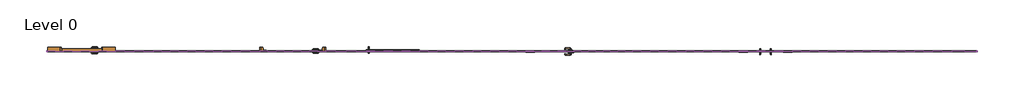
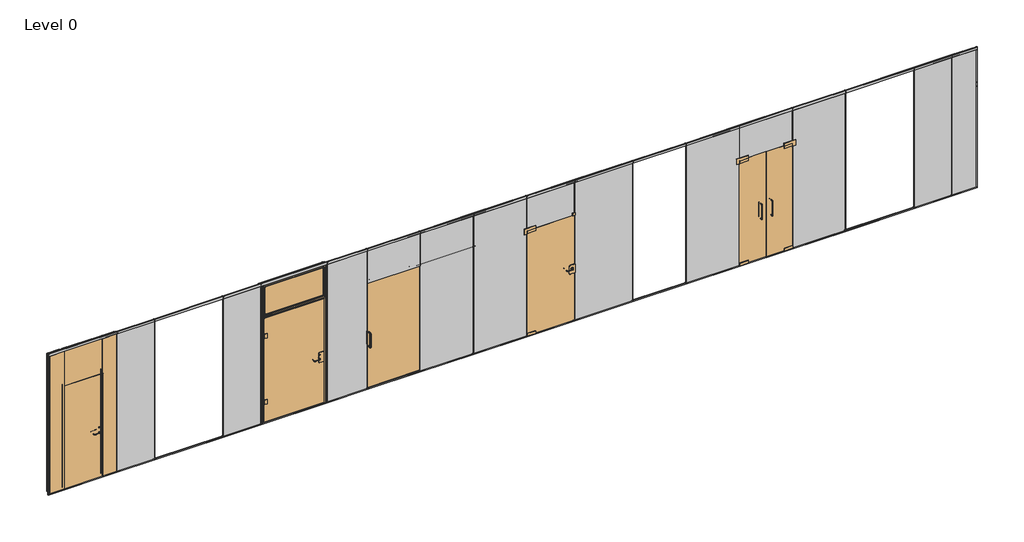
# One storey, incomplete: 93 members, 13 plates, 5 doors.
"""IFC4 building model written with IfcOpenShell, lengths in millimetres."""

from ifc_helpers import new_model, si_unit, origin, place, context, project, spatial, transform, mapped, element, save
from components import door_4bdab91e, door_efc99afd, door_12e92a34, door_593d37a7, door_2dd58c00, door_1290_8cabc72d, rectangular_mullion_rectangular_mullion_fg_bottom_20mm_be47ead7, rectangular_mullion_rectangular_mullion_fg_bottom_20mm_2a522555, rectangular_mullion_rectangular_mullion_fg_bottom_20mm_8a9d94b1, rectangular_mullion_rectangular_mullion_fg_bottom_20mm_cffc065b, rectangular_mullion_rectangular_mullion_fg_bottom_20mm_e7f64252, rectangular_mullion_rectangular_mullion_fg_bottom_20mm_6217017c, rectangular_mullion_rectangular_mullion_fg_bottom_20mm_01b67362, rectangular_mullion_rectangular_mullion_fg_bottom_20mm_9df6eb3f, rectangular_mullion_rectangular_mullion_fg_left_20mm_1a1b1e89, rectangular_mullion_rectangular_mullion_fg_left_20mm_8ce3ad6a, rectangular_mullion_rectangular_mullion_fg_left_20mm_3cd01e2b, rectangular_mullion_rectangular_mullion_fg_right_20mm_df7b3989, rectangular_mullion_rectangular_mullion_fg_right_20mm_d84e4cdc, rectangular_mullion_rectangular_mullion_fg_right_20mm_bd3cf4a2, rectangular_mullion_rectangular_mullion_fg_top_20mm_3b803832, rectangular_mullion_rectangular_mullion_fg_top_20mm_c4bc6695, rectangular_mullion_rectangular_mullion_fg_top_20mm_9133186d, rectangular_mullion_rectangular_mullion_fg_top_20mm_12d62298, rectangular_mullion_rectangular_mullion_fg_top_20mm_db12e461, rectangular_mullion_rectangular_mullion_fg_top_20mm_400e5d01, rectangular_mullion_rectangular_mullion_fg_top_20mm_ac938a26, rectangular_mullion_rectangular_mullion_fg_top_20mm_d943a9ef, rectangular_mullion_rectangular_mullion_fg_vertical_bcc550d2, rectangular_mullion_rectangular_mullion_fg_vertical_0372845c, rectangular_mullion_rectangular_mullion_fg_vertical_7fae1f3c, plate_ace970d0, plate_fe703c6f, plate_38296ff7, plate_d996e99b, plate_20f3e559, plate_4b7810f1, plate_a2abe902

model = new_model("IFC4")

# Units and contexts
model_context = context("Model", 3, world=origin())
ifc_project = project(units=[si_unit("LENGTHUNIT", "METRE", prefix="MILLI")], contexts=[model_context])

# Site, building, storey
site = spatial("IfcSite", under=ifc_project)
building = spatial("IfcBuilding", under=site)
storey = spatial("IfcBuildingStorey", under=building, Name="Level 0", Elevation=0.0)

# Doors
placement = place(None, origin())
door_shape = door_4bdab91e(model_context)
element("IfcDoor", 1, ObjectType="GLASSLINE_SLAGDÖRR GLAS GLAS Double Door : GLASSLINE_SLAGDÖRR GLAS GLAS Double Door", at=placement, inside=storey, context=model_context, shape_type="MappedRepresentation", body=[
    mapped(door_shape, transform((5114.7291656, 515.3114675, 20.0), x_axis=(1.0, 0.0, 0.0), y_axis=(0.0, 1.0, 0.0), z_axis=(0.0, 0.0, 1.0))),
])
door_2_shape = door_efc99afd(model_context)
element("IfcDoor", 2, ObjectType="GLASSLINE_SLAGDÖRR GLAS GLAS : GLASSLINE_SLAGDÖRR GLAS GLAS", at=placement, inside=storey, context=model_context, shape_type="MappedRepresentation", body=[
    mapped(door_2_shape, transform((1064.7291656, 515.3114675, 20.0), x_axis=(1.0, 0.0, 0.0), y_axis=(0.0, 1.0, 0.0), z_axis=(0.0, 0.0, 1.0))),
])
door_3_shape = door_12e92a34(model_context)
element("IfcDoor", 3, ObjectType="GLASSLINE_SKJUTDÖRR GLAS : GLASSLINE_SKJUTDÖRR GLAS", at=placement, inside=storey, context=model_context, shape_type="MappedRepresentation", body=[
    mapped(door_3_shape, transform((-1885.2708344, 515.3114675, 20.0), x_axis=(1.0, 0.0, 0.0), y_axis=(0.0, 1.0, 0.0), z_axis=(0.0, 0.0, 1.0))),
])
door_4_shape = door_593d37a7(model_context)
door_5_shape = door_2dd58c00(model_context)
element("IfcDoor", 4, ObjectType="GLASSLINE_GLASDÖRR I TRAKARM : GLASSLINE_GLASDÖRR I TRAKARM", at=placement, inside=storey, context=model_context, shape_type="MappedRepresentation", body=[
    mapped(door_4_shape, transform((-3762.2708344, 515.3114675, 20.0), x_axis=(1.0, 0.0, 0.0), y_axis=(0.0, 1.0, 0.0), z_axis=(0.0, 0.0, 1.0))),
    mapped(door_5_shape, transform((-3762.2708344, 515.3114675, 20.0), x_axis=(1.0, 0.0, 0.0), y_axis=(0.0, 1.0, 0.0), z_axis=(0.0, 0.0, 1.0))),
])
door_1290_shape = door_1290_8cabc72d(model_context)
element("IfcDoor", 5, ObjectType="GLASSLINE_DÖRR FRAMLESS : 1290", at=placement, inside=storey, context=model_context, shape_type="MappedRepresentation", body=[
    mapped(door_1290_shape, transform((-7730.2708344, 515.3114675, 20.0), x_axis=(1.0, 0.0, 0.0), y_axis=(0.0, 1.0, 0.0), z_axis=(0.0, 0.0, 1.0))),
])

# Members
rectangular_mullion_rectangular_mullion_fg_bottom_20mm_shape = rectangular_mullion_rectangular_mullion_fg_bottom_20mm_be47ead7(model_context)
element("IfcMember", 6, ObjectType="Rectangular Mullion : Rectangular Mullion-FG Bottom 20mm", at=placement, inside=storey, context=model_context, shape_type="MappedRepresentation", body=[
    mapped(rectangular_mullion_rectangular_mullion_fg_bottom_20mm_shape, transform((-8385.2708344, 515.3114675, 0.0), x_axis=(0.0, 0.0, -1.0), y_axis=(0.0, -1.0, 0.0), z_axis=(-1.0, 0.0, 0.0))),
])
rectangular_mullion_rectangular_mullion_fg_bottom_20mm_2_shape = rectangular_mullion_rectangular_mullion_fg_bottom_20mm_2a522555(model_context)
element("IfcMember", 7, ObjectType="Rectangular Mullion : Rectangular Mullion-FG Bottom 20mm", at=placement, inside=storey, context=model_context, shape_type="MappedRepresentation", body=[
    mapped(rectangular_mullion_rectangular_mullion_fg_bottom_20mm_2_shape, transform((-7095.2708344, 515.3114675, 0.0), x_axis=(0.0, 0.0, -1.0), y_axis=(0.0, -1.0, 0.0), z_axis=(-1.0, 0.0, 0.0))),
])
element("IfcMember", 8, ObjectType="Rectangular Mullion : Rectangular Mullion-FG Bottom 20mm", at=placement, inside=storey, context=model_context, shape_type="MappedRepresentation", body=[
    mapped(rectangular_mullion_rectangular_mullion_fg_bottom_20mm_2_shape, transform((-5095.2708344, 515.3114675, 0.0), x_axis=(0.0, 0.0, -1.0), y_axis=(0.0, -1.0, 0.0), z_axis=(-1.0, 0.0, 0.0))),
])
element("IfcMember", 9, ObjectType="Rectangular Mullion : Rectangular Mullion-FG Bottom 20mm", at=placement, inside=storey, context=model_context, shape_type="MappedRepresentation", body=[
    mapped(rectangular_mullion_rectangular_mullion_fg_bottom_20mm_2_shape, transform((7904.7291656, 515.3114675, 0.0), x_axis=(0.0, 0.0, -1.0), y_axis=(0.0, -1.0, 0.0), z_axis=(-1.0, 0.0, 0.0))),
])
element("IfcMember", 10, ObjectType="Rectangular Mullion : Rectangular Mullion-FG Bottom 20mm", at=placement, inside=storey, context=model_context, shape_type="MappedRepresentation", body=[
    mapped(rectangular_mullion_rectangular_mullion_fg_bottom_20mm_shape, transform((-6385.2708344, 515.3114675, 0.0), x_axis=(0.0, 0.0, -1.0), y_axis=(0.0, -1.0, 0.0), z_axis=(-1.0, 0.0, 0.0))),
])
element("IfcMember", 11, ObjectType="Rectangular Mullion : Rectangular Mullion-FG Bottom 20mm", at=placement, inside=storey, context=model_context, shape_type="MappedRepresentation", body=[
    mapped(rectangular_mullion_rectangular_mullion_fg_bottom_20mm_shape, transform((6614.7291656, 515.3114675, 0.0), x_axis=(0.0, 0.0, -1.0), y_axis=(0.0, -1.0, 0.0), z_axis=(-1.0, 0.0, 0.0))),
])
rectangular_mullion_rectangular_mullion_fg_bottom_20mm_3_shape = rectangular_mullion_rectangular_mullion_fg_bottom_20mm_8a9d94b1(model_context)
element("IfcMember", 12, ObjectType="Rectangular Mullion : Rectangular Mullion-FG Bottom 20mm", at=placement, inside=storey, context=model_context, shape_type="MappedRepresentation", body=[
    mapped(rectangular_mullion_rectangular_mullion_fg_bottom_20mm_3_shape, transform((-4385.2708344, 515.3114675, 0.0), x_axis=(0.0, 0.0, -1.0), y_axis=(0.0, -1.0, 0.0), z_axis=(-1.0, 0.0, 0.0))),
])
rectangular_mullion_rectangular_mullion_fg_bottom_20mm_4_shape = rectangular_mullion_rectangular_mullion_fg_bottom_20mm_cffc065b(model_context)
element("IfcMember", 13, ObjectType="Rectangular Mullion : Rectangular Mullion-FG Bottom 20mm", at=placement, inside=storey, context=model_context, shape_type="MappedRepresentation", body=[
    mapped(rectangular_mullion_rectangular_mullion_fg_bottom_20mm_4_shape, transform((-3139.2708344, 515.3114675, 0.0), x_axis=(0.0, 0.0, -1.0), y_axis=(0.0, -1.0, 0.0), z_axis=(-1.0, 0.0, 0.0))),
])
rectangular_mullion_rectangular_mullion_fg_bottom_20mm_5_shape = rectangular_mullion_rectangular_mullion_fg_bottom_20mm_e7f64252(model_context)
element("IfcMember", 14, ObjectType="Rectangular Mullion : Rectangular Mullion-FG Bottom 20mm", at=placement, inside=storey, context=model_context, shape_type="MappedRepresentation", body=[
    mapped(rectangular_mullion_rectangular_mullion_fg_bottom_20mm_5_shape, transform((-2385.2708344, 515.3114675, 0.0), x_axis=(0.0, 0.0, -1.0), y_axis=(0.0, -1.0, 0.0), z_axis=(-1.0, 0.0, 0.0))),
])
element("IfcMember", 15, ObjectType="Rectangular Mullion : Rectangular Mullion-FG Bottom 20mm", at=placement, inside=storey, context=model_context, shape_type="MappedRepresentation", body=[
    mapped(rectangular_mullion_rectangular_mullion_fg_bottom_20mm_5_shape, transform((-1385.2708344, 515.3114675, 0.0), x_axis=(0.0, 0.0, -1.0), y_axis=(0.0, -1.0, 0.0), z_axis=(-1.0, 0.0, 0.0))),
])
element("IfcMember", 16, ObjectType="Rectangular Mullion : Rectangular Mullion-FG Bottom 20mm", at=placement, inside=storey, context=model_context, shape_type="MappedRepresentation", body=[
    mapped(rectangular_mullion_rectangular_mullion_fg_bottom_20mm_5_shape, transform((-385.2708344, 515.3114675, 0.0), x_axis=(0.0, 0.0, -1.0), y_axis=(0.0, -1.0, 0.0), z_axis=(-1.0, 0.0, 0.0))),
])
element("IfcMember", 17, ObjectType="Rectangular Mullion : Rectangular Mullion-FG Bottom 20mm", at=placement, inside=storey, context=model_context, shape_type="MappedRepresentation", body=[
    mapped(rectangular_mullion_rectangular_mullion_fg_bottom_20mm_5_shape, transform((2614.7291656, 515.3114675, 0.0), x_axis=(0.0, 0.0, -1.0), y_axis=(0.0, -1.0, 0.0), z_axis=(-1.0, 0.0, 0.0))),
])
element("IfcMember", 18, ObjectType="Rectangular Mullion : Rectangular Mullion-FG Bottom 20mm", at=placement, inside=storey, context=model_context, shape_type="MappedRepresentation", body=[
    mapped(rectangular_mullion_rectangular_mullion_fg_bottom_20mm_5_shape, transform((3614.7291656, 515.3114675, 0.0), x_axis=(0.0, 0.0, -1.0), y_axis=(0.0, -1.0, 0.0), z_axis=(-1.0, 0.0, 0.0))),
])
element("IfcMember", 19, ObjectType="Rectangular Mullion : Rectangular Mullion-FG Bottom 20mm", at=placement, inside=storey, context=model_context, shape_type="MappedRepresentation", body=[
    mapped(rectangular_mullion_rectangular_mullion_fg_bottom_20mm_5_shape, transform((4614.7291656, 515.3114675, 0.0), x_axis=(0.0, 0.0, -1.0), y_axis=(0.0, -1.0, 0.0), z_axis=(-1.0, 0.0, 0.0))),
])
element("IfcMember", 20, ObjectType="Rectangular Mullion : Rectangular Mullion-FG Bottom 20mm", at=placement, inside=storey, context=model_context, shape_type="MappedRepresentation", body=[
    mapped(rectangular_mullion_rectangular_mullion_fg_bottom_20mm_5_shape, transform((5614.7291656, 515.3114675, 0.0), x_axis=(0.0, 0.0, -1.0), y_axis=(0.0, -1.0, 0.0), z_axis=(-1.0, 0.0, 0.0))),
])
rectangular_mullion_rectangular_mullion_fg_bottom_20mm_6_shape = rectangular_mullion_rectangular_mullion_fg_bottom_20mm_6217017c(model_context)
element("IfcMember", 21, ObjectType="Rectangular Mullion : Rectangular Mullion-FG Bottom 20mm", at=placement, inside=storey, context=model_context, shape_type="MappedRepresentation", body=[
    mapped(rectangular_mullion_rectangular_mullion_fg_bottom_20mm_6_shape, transform((614.7291656, 515.3114675, 0.0), x_axis=(0.0, 0.0, -1.0), y_axis=(0.0, -1.0, 0.0), z_axis=(-1.0, 0.0, 0.0))),
])
rectangular_mullion_rectangular_mullion_fg_bottom_20mm_7_shape = rectangular_mullion_rectangular_mullion_fg_bottom_20mm_01b67362(model_context)
element("IfcMember", 22, ObjectType="Rectangular Mullion : Rectangular Mullion-FG Bottom 20mm", at=placement, inside=storey, context=model_context, shape_type="MappedRepresentation", body=[
    mapped(rectangular_mullion_rectangular_mullion_fg_bottom_20mm_7_shape, transform((1514.7291656, 515.3114675, 0.0), x_axis=(0.0, 0.0, -1.0), y_axis=(0.0, -1.0, 0.0), z_axis=(-1.0, 0.0, 0.0))),
])
rectangular_mullion_rectangular_mullion_fg_bottom_20mm_8_shape = rectangular_mullion_rectangular_mullion_fg_bottom_20mm_9df6eb3f(model_context)
element("IfcMember", 23, ObjectType="Rectangular Mullion : Rectangular Mullion-FG Bottom 20mm", at=placement, inside=storey, context=model_context, shape_type="MappedRepresentation", body=[
    mapped(rectangular_mullion_rectangular_mullion_fg_bottom_20mm_8_shape, transform((8614.7291656, 515.3114675, 0.0), x_axis=(0.0, 0.0, -1.0), y_axis=(0.0, -1.0, 0.0), z_axis=(-1.0, 0.0, 0.0))),
])
rectangular_mullion_rectangular_mullion_fg_left_20mm_shape = rectangular_mullion_rectangular_mullion_fg_left_20mm_1a1b1e89(model_context)
element("IfcMember", 24, ObjectType="Rectangular Mullion : Rectangular Mullion-FG Left 20mm", at=placement, inside=storey, context=model_context, shape_type="MappedRepresentation", body=[
    mapped(rectangular_mullion_rectangular_mullion_fg_left_20mm_shape, transform((-8385.2708344, 515.3114675, 2755.0), x_axis=(-1.0, 0.0, 0.0), y_axis=(0.0, -1.0, 0.0), z_axis=(0.0, 0.0, 1.0))),
])
rectangular_mullion_rectangular_mullion_fg_left_20mm_2_shape = rectangular_mullion_rectangular_mullion_fg_left_20mm_8ce3ad6a(model_context)
element("IfcMember", 25, ObjectType="Rectangular Mullion : Rectangular Mullion-FG Left 20mm", at=placement, inside=storey, context=model_context, shape_type="MappedRepresentation", body=[
    mapped(rectangular_mullion_rectangular_mullion_fg_left_20mm_2_shape, transform((-8385.2708344, 515.3114675, 2110.000045), x_axis=(-1.0, 0.0, 0.0), y_axis=(0.0, -1.0, 0.0), z_axis=(0.0, 0.0, 1.0))),
])
rectangular_mullion_rectangular_mullion_fg_left_20mm_3_shape = rectangular_mullion_rectangular_mullion_fg_left_20mm_3cd01e2b(model_context)
element("IfcMember", 26, ObjectType="Rectangular Mullion : Rectangular Mullion-FG Left 20mm", at=placement, inside=storey, context=model_context, shape_type="MappedRepresentation", body=[
    mapped(rectangular_mullion_rectangular_mullion_fg_left_20mm_3_shape, transform((-8385.2708344, 515.3114675, 2030.000045), x_axis=(-1.0, 0.0, 0.0), y_axis=(0.0, -1.0, 0.0), z_axis=(0.0, 0.0, 1.0))),
])
rectangular_mullion_rectangular_mullion_fg_right_20mm_shape = rectangular_mullion_rectangular_mullion_fg_right_20mm_df7b3989(model_context)
element("IfcMember", 27, ObjectType="Rectangular Mullion : Rectangular Mullion-FG Right 20mm", at=placement, inside=storey, context=model_context, shape_type="MappedRepresentation", body=[
    mapped(rectangular_mullion_rectangular_mullion_fg_right_20mm_shape, transform((9094.7291656, 515.3114675, 20.0), x_axis=(1.0, 0.0, 0.0), y_axis=(0.0, -1.0, 0.0), z_axis=(0.0, 0.0, -1.0))),
])
rectangular_mullion_rectangular_mullion_fg_right_20mm_2_shape = rectangular_mullion_rectangular_mullion_fg_right_20mm_d84e4cdc(model_context)
element("IfcMember", 28, ObjectType="Rectangular Mullion : Rectangular Mullion-FG Right 20mm", at=placement, inside=storey, context=model_context, shape_type="MappedRepresentation", body=[
    mapped(rectangular_mullion_rectangular_mullion_fg_right_20mm_2_shape, transform((9094.7291656, 515.3114675, 2110.000045), x_axis=(1.0, 0.0, 0.0), y_axis=(0.0, -1.0, 0.0), z_axis=(0.0, 0.0, -1.0))),
])
rectangular_mullion_rectangular_mullion_fg_right_20mm_3_shape = rectangular_mullion_rectangular_mullion_fg_right_20mm_bd3cf4a2(model_context)
element("IfcMember", 29, ObjectType="Rectangular Mullion : Rectangular Mullion-FG Right 20mm", at=placement, inside=storey, context=model_context, shape_type="MappedRepresentation", body=[
    mapped(rectangular_mullion_rectangular_mullion_fg_right_20mm_3_shape, transform((9094.7291656, 515.3114675, 2030.000045), x_axis=(1.0, 0.0, 0.0), y_axis=(0.0, -1.0, 0.0), z_axis=(0.0, 0.0, -1.0))),
])
rectangular_mullion_rectangular_mullion_fg_top_20mm_shape = rectangular_mullion_rectangular_mullion_fg_top_20mm_3b803832(model_context)
element("IfcMember", 30, ObjectType="Rectangular Mullion : Rectangular Mullion-FG Top 20mm", at=placement, inside=storey, context=model_context, shape_type="MappedRepresentation", body=[
    mapped(rectangular_mullion_rectangular_mullion_fg_top_20mm_shape, transform((9094.7291656, 515.3114675, 2800.0), x_axis=(0.0, 0.0, 1.0), y_axis=(0.0, -1.0, 0.0), z_axis=(1.0, 0.0, 0.0))),
])
rectangular_mullion_rectangular_mullion_fg_top_20mm_2_shape = rectangular_mullion_rectangular_mullion_fg_top_20mm_c4bc6695(model_context)
element("IfcMember", 31, ObjectType="Rectangular Mullion : Rectangular Mullion-FG Top 20mm", at=placement, inside=storey, context=model_context, shape_type="MappedRepresentation", body=[
    mapped(rectangular_mullion_rectangular_mullion_fg_top_20mm_2_shape, transform((-7095.2708344, 515.3114675, 2800.0), x_axis=(0.0, 0.0, 1.0), y_axis=(0.0, -1.0, 0.0), z_axis=(1.0, 0.0, 0.0))),
])
rectangular_mullion_rectangular_mullion_fg_top_20mm_3_shape = rectangular_mullion_rectangular_mullion_fg_top_20mm_9133186d(model_context)
element("IfcMember", 32, ObjectType="Rectangular Mullion : Rectangular Mullion-FG Top 20mm", at=placement, inside=storey, context=model_context, shape_type="MappedRepresentation", body=[
    mapped(rectangular_mullion_rectangular_mullion_fg_top_20mm_3_shape, transform((-6385.2708344, 515.3114675, 2800.0), x_axis=(0.0, 0.0, 1.0), y_axis=(0.0, -1.0, 0.0), z_axis=(1.0, 0.0, 0.0))),
])
element("IfcMember", 33, ObjectType="Rectangular Mullion : Rectangular Mullion-FG Top 20mm", at=placement, inside=storey, context=model_context, shape_type="MappedRepresentation", body=[
    mapped(rectangular_mullion_rectangular_mullion_fg_top_20mm_3_shape, transform((-4385.2708344, 515.3114675, 2800.0), x_axis=(0.0, 0.0, 1.0), y_axis=(0.0, -1.0, 0.0), z_axis=(1.0, 0.0, 0.0))),
])
element("IfcMember", 34, ObjectType="Rectangular Mullion : Rectangular Mullion-FG Top 20mm", at=placement, inside=storey, context=model_context, shape_type="MappedRepresentation", body=[
    mapped(rectangular_mullion_rectangular_mullion_fg_top_20mm_3_shape, transform((8614.7291656, 515.3114675, 2800.0), x_axis=(0.0, 0.0, 1.0), y_axis=(0.0, -1.0, 0.0), z_axis=(1.0, 0.0, 0.0))),
])
element("IfcMember", 35, ObjectType="Rectangular Mullion : Rectangular Mullion-FG Top 20mm", at=placement, inside=storey, context=model_context, shape_type="MappedRepresentation", body=[
    mapped(rectangular_mullion_rectangular_mullion_fg_top_20mm_2_shape, transform((-5095.2708344, 515.3114675, 2800.0), x_axis=(0.0, 0.0, 1.0), y_axis=(0.0, -1.0, 0.0), z_axis=(1.0, 0.0, 0.0))),
])
element("IfcMember", 36, ObjectType="Rectangular Mullion : Rectangular Mullion-FG Top 20mm", at=placement, inside=storey, context=model_context, shape_type="MappedRepresentation", body=[
    mapped(rectangular_mullion_rectangular_mullion_fg_top_20mm_2_shape, transform((7904.7291656, 515.3114675, 2800.0), x_axis=(0.0, 0.0, 1.0), y_axis=(0.0, -1.0, 0.0), z_axis=(1.0, 0.0, 0.0))),
])
rectangular_mullion_rectangular_mullion_fg_top_20mm_4_shape = rectangular_mullion_rectangular_mullion_fg_top_20mm_12d62298(model_context)
element("IfcMember", 37, ObjectType="Rectangular Mullion : Rectangular Mullion-FG Top 20mm", at=placement, inside=storey, context=model_context, shape_type="MappedRepresentation", body=[
    mapped(rectangular_mullion_rectangular_mullion_fg_top_20mm_4_shape, transform((-3139.2708344, 515.3114675, 2800.0), x_axis=(0.0, 0.0, 1.0), y_axis=(0.0, -1.0, 0.0), z_axis=(1.0, 0.0, 0.0))),
])
rectangular_mullion_rectangular_mullion_fg_top_20mm_5_shape = rectangular_mullion_rectangular_mullion_fg_top_20mm_db12e461(model_context)
element("IfcMember", 38, ObjectType="Rectangular Mullion : Rectangular Mullion-FG Top 20mm", at=placement, inside=storey, context=model_context, shape_type="MappedRepresentation", body=[
    mapped(rectangular_mullion_rectangular_mullion_fg_top_20mm_5_shape, transform((-2385.2708344, 515.3114675, 2800.0), x_axis=(0.0, 0.0, 1.0), y_axis=(0.0, -1.0, 0.0), z_axis=(1.0, 0.0, 0.0))),
])
rectangular_mullion_rectangular_mullion_fg_top_20mm_6_shape = rectangular_mullion_rectangular_mullion_fg_top_20mm_400e5d01(model_context)
element("IfcMember", 39, ObjectType="Rectangular Mullion : Rectangular Mullion-FG Top 20mm", at=placement, inside=storey, context=model_context, shape_type="MappedRepresentation", body=[
    mapped(rectangular_mullion_rectangular_mullion_fg_top_20mm_6_shape, transform((-1385.2708344, 515.3114675, 2800.0), x_axis=(0.0, 0.0, 1.0), y_axis=(0.0, -1.0, 0.0), z_axis=(1.0, 0.0, 0.0))),
])
element("IfcMember", 40, ObjectType="Rectangular Mullion : Rectangular Mullion-FG Top 20mm", at=placement, inside=storey, context=model_context, shape_type="MappedRepresentation", body=[
    mapped(rectangular_mullion_rectangular_mullion_fg_top_20mm_6_shape, transform((-385.2708344, 515.3114675, 2800.0), x_axis=(0.0, 0.0, 1.0), y_axis=(0.0, -1.0, 0.0), z_axis=(1.0, 0.0, 0.0))),
])
element("IfcMember", 41, ObjectType="Rectangular Mullion : Rectangular Mullion-FG Top 20mm", at=placement, inside=storey, context=model_context, shape_type="MappedRepresentation", body=[
    mapped(rectangular_mullion_rectangular_mullion_fg_top_20mm_6_shape, transform((614.7291656, 515.3114675, 2800.0), x_axis=(0.0, 0.0, 1.0), y_axis=(0.0, -1.0, 0.0), z_axis=(1.0, 0.0, 0.0))),
])
element("IfcMember", 42, ObjectType="Rectangular Mullion : Rectangular Mullion-FG Top 20mm", at=placement, inside=storey, context=model_context, shape_type="MappedRepresentation", body=[
    mapped(rectangular_mullion_rectangular_mullion_fg_top_20mm_6_shape, transform((3614.7291656, 515.3114675, 2800.0), x_axis=(0.0, 0.0, 1.0), y_axis=(0.0, -1.0, 0.0), z_axis=(1.0, 0.0, 0.0))),
])
element("IfcMember", 43, ObjectType="Rectangular Mullion : Rectangular Mullion-FG Top 20mm", at=placement, inside=storey, context=model_context, shape_type="MappedRepresentation", body=[
    mapped(rectangular_mullion_rectangular_mullion_fg_top_20mm_6_shape, transform((4614.7291656, 515.3114675, 2800.0), x_axis=(0.0, 0.0, 1.0), y_axis=(0.0, -1.0, 0.0), z_axis=(1.0, 0.0, 0.0))),
])
element("IfcMember", 44, ObjectType="Rectangular Mullion : Rectangular Mullion-FG Top 20mm", at=placement, inside=storey, context=model_context, shape_type="MappedRepresentation", body=[
    mapped(rectangular_mullion_rectangular_mullion_fg_top_20mm_6_shape, transform((5614.7291656, 515.3114675, 2800.0), x_axis=(0.0, 0.0, 1.0), y_axis=(0.0, -1.0, 0.0), z_axis=(1.0, 0.0, 0.0))),
])
element("IfcMember", 45, ObjectType="Rectangular Mullion : Rectangular Mullion-FG Top 20mm", at=placement, inside=storey, context=model_context, shape_type="MappedRepresentation", body=[
    mapped(rectangular_mullion_rectangular_mullion_fg_top_20mm_6_shape, transform((6614.7291656, 515.3114675, 2800.0), x_axis=(0.0, 0.0, 1.0), y_axis=(0.0, -1.0, 0.0), z_axis=(1.0, 0.0, 0.0))),
])
rectangular_mullion_rectangular_mullion_fg_top_20mm_7_shape = rectangular_mullion_rectangular_mullion_fg_top_20mm_ac938a26(model_context)
element("IfcMember", 46, ObjectType="Rectangular Mullion : Rectangular Mullion-FG Top 20mm", at=placement, inside=storey, context=model_context, shape_type="MappedRepresentation", body=[
    mapped(rectangular_mullion_rectangular_mullion_fg_top_20mm_7_shape, transform((1514.7291656, 515.3114675, 2800.0), x_axis=(0.0, 0.0, 1.0), y_axis=(0.0, -1.0, 0.0), z_axis=(1.0, 0.0, 0.0))),
])
rectangular_mullion_rectangular_mullion_fg_top_20mm_8_shape = rectangular_mullion_rectangular_mullion_fg_top_20mm_d943a9ef(model_context)
element("IfcMember", 47, ObjectType="Rectangular Mullion : Rectangular Mullion-FG Top 20mm", at=placement, inside=storey, context=model_context, shape_type="MappedRepresentation", body=[
    mapped(rectangular_mullion_rectangular_mullion_fg_top_20mm_8_shape, transform((2614.7291656, 515.3114675, 2800.0), x_axis=(0.0, 0.0, 1.0), y_axis=(0.0, -1.0, 0.0), z_axis=(1.0, 0.0, 0.0))),
])
rectangular_mullion_rectangular_mullion_fg_vertical_shape = rectangular_mullion_rectangular_mullion_fg_vertical_bcc550d2(model_context)
element("IfcMember", 48, ObjectType="Rectangular Mullion : Rectangular Mullion-FG Vertical", at=placement, inside=storey, context=model_context, shape_type="MappedRepresentation", body=[
    mapped(rectangular_mullion_rectangular_mullion_fg_vertical_shape, transform((-7095.2708344, 515.3114675, 20.0), x_axis=(1.0, 0.0, 0.0), y_axis=(0.0, -1.0, 0.0), z_axis=(0.0, 0.0, -1.0))),
])
element("IfcMember", 49, ObjectType="Rectangular Mullion : Rectangular Mullion-FG Vertical", at=placement, inside=storey, context=model_context, shape_type="MappedRepresentation", body=[
    mapped(rectangular_mullion_rectangular_mullion_fg_vertical_shape, transform((-6385.2708344, 515.3114675, 20.0), x_axis=(1.0, 0.0, 0.0), y_axis=(0.0, -1.0, 0.0), z_axis=(0.0, 0.0, -1.0))),
])
element("IfcMember", 50, ObjectType="Rectangular Mullion : Rectangular Mullion-FG Vertical", at=placement, inside=storey, context=model_context, shape_type="MappedRepresentation", body=[
    mapped(rectangular_mullion_rectangular_mullion_fg_vertical_shape, transform((-5095.2708344, 515.3114675, 20.0), x_axis=(1.0, 0.0, 0.0), y_axis=(0.0, -1.0, 0.0), z_axis=(0.0, 0.0, -1.0))),
])
element("IfcMember", 51, ObjectType="Rectangular Mullion : Rectangular Mullion-FG Vertical", at=placement, inside=storey, context=model_context, shape_type="MappedRepresentation", body=[
    mapped(rectangular_mullion_rectangular_mullion_fg_vertical_shape, transform((-4385.2708344, 515.3114675, 20.0), x_axis=(1.0, 0.0, 0.0), y_axis=(0.0, -1.0, 0.0), z_axis=(0.0, 0.0, -1.0))),
])
element("IfcMember", 52, ObjectType="Rectangular Mullion : Rectangular Mullion-FG Vertical", at=placement, inside=storey, context=model_context, shape_type="MappedRepresentation", body=[
    mapped(rectangular_mullion_rectangular_mullion_fg_vertical_shape, transform((-3139.2708344, 515.3114675, 20.0), x_axis=(1.0, 0.0, 0.0), y_axis=(0.0, -1.0, 0.0), z_axis=(0.0, 0.0, -1.0))),
])
element("IfcMember", 53, ObjectType="Rectangular Mullion : Rectangular Mullion-FG Vertical", at=placement, inside=storey, context=model_context, shape_type="MappedRepresentation", body=[
    mapped(rectangular_mullion_rectangular_mullion_fg_vertical_shape, transform((-2385.2708344, 515.3114675, 20.0), x_axis=(1.0, 0.0, 0.0), y_axis=(0.0, -1.0, 0.0), z_axis=(0.0, 0.0, -1.0))),
])
element("IfcMember", 54, ObjectType="Rectangular Mullion : Rectangular Mullion-FG Vertical", at=placement, inside=storey, context=model_context, shape_type="MappedRepresentation", body=[
    mapped(rectangular_mullion_rectangular_mullion_fg_vertical_shape, transform((-1385.2708344, 515.3114675, 20.0), x_axis=(1.0, 0.0, 0.0), y_axis=(0.0, -1.0, 0.0), z_axis=(0.0, 0.0, -1.0))),
])
element("IfcMember", 55, ObjectType="Rectangular Mullion : Rectangular Mullion-FG Vertical", at=placement, inside=storey, context=model_context, shape_type="MappedRepresentation", body=[
    mapped(rectangular_mullion_rectangular_mullion_fg_vertical_shape, transform((-385.2708344, 515.3114675, 20.0), x_axis=(1.0, 0.0, 0.0), y_axis=(0.0, -1.0, 0.0), z_axis=(0.0, 0.0, -1.0))),
])
element("IfcMember", 56, ObjectType="Rectangular Mullion : Rectangular Mullion-FG Vertical", at=placement, inside=storey, context=model_context, shape_type="MappedRepresentation", body=[
    mapped(rectangular_mullion_rectangular_mullion_fg_vertical_shape, transform((614.7291656, 515.3114675, 20.0), x_axis=(1.0, 0.0, 0.0), y_axis=(0.0, -1.0, 0.0), z_axis=(0.0, 0.0, -1.0))),
])
element("IfcMember", 57, ObjectType="Rectangular Mullion : Rectangular Mullion-FG Vertical", at=placement, inside=storey, context=model_context, shape_type="MappedRepresentation", body=[
    mapped(rectangular_mullion_rectangular_mullion_fg_vertical_shape, transform((1514.7291656, 515.3114675, 20.0), x_axis=(1.0, 0.0, 0.0), y_axis=(0.0, -1.0, 0.0), z_axis=(0.0, 0.0, -1.0))),
])
element("IfcMember", 58, ObjectType="Rectangular Mullion : Rectangular Mullion-FG Vertical", at=placement, inside=storey, context=model_context, shape_type="MappedRepresentation", body=[
    mapped(rectangular_mullion_rectangular_mullion_fg_vertical_shape, transform((2614.7291656, 515.3114675, 20.0), x_axis=(1.0, 0.0, 0.0), y_axis=(0.0, -1.0, 0.0), z_axis=(0.0, 0.0, -1.0))),
])
element("IfcMember", 59, ObjectType="Rectangular Mullion : Rectangular Mullion-FG Vertical", at=placement, inside=storey, context=model_context, shape_type="MappedRepresentation", body=[
    mapped(rectangular_mullion_rectangular_mullion_fg_vertical_shape, transform((3614.7291656, 515.3114675, 20.0), x_axis=(1.0, 0.0, 0.0), y_axis=(0.0, -1.0, 0.0), z_axis=(0.0, 0.0, -1.0))),
])
element("IfcMember", 60, ObjectType="Rectangular Mullion : Rectangular Mullion-FG Vertical", at=placement, inside=storey, context=model_context, shape_type="MappedRepresentation", body=[
    mapped(rectangular_mullion_rectangular_mullion_fg_vertical_shape, transform((4614.7291656, 515.3114675, 20.0), x_axis=(1.0, 0.0, 0.0), y_axis=(0.0, -1.0, 0.0), z_axis=(0.0, 0.0, -1.0))),
])
element("IfcMember", 61, ObjectType="Rectangular Mullion : Rectangular Mullion-FG Vertical", at=placement, inside=storey, context=model_context, shape_type="MappedRepresentation", body=[
    mapped(rectangular_mullion_rectangular_mullion_fg_vertical_shape, transform((5614.7291656, 515.3114675, 20.0), x_axis=(1.0, 0.0, 0.0), y_axis=(0.0, -1.0, 0.0), z_axis=(0.0, 0.0, -1.0))),
])
element("IfcMember", 62, ObjectType="Rectangular Mullion : Rectangular Mullion-FG Vertical", at=placement, inside=storey, context=model_context, shape_type="MappedRepresentation", body=[
    mapped(rectangular_mullion_rectangular_mullion_fg_vertical_shape, transform((6614.7291656, 515.3114675, 20.0), x_axis=(1.0, 0.0, 0.0), y_axis=(0.0, -1.0, 0.0), z_axis=(0.0, 0.0, -1.0))),
])
element("IfcMember", 63, ObjectType="Rectangular Mullion : Rectangular Mullion-FG Vertical", at=placement, inside=storey, context=model_context, shape_type="MappedRepresentation", body=[
    mapped(rectangular_mullion_rectangular_mullion_fg_vertical_shape, transform((7904.7291656, 515.3114675, 20.0), x_axis=(1.0, 0.0, 0.0), y_axis=(0.0, -1.0, 0.0), z_axis=(0.0, 0.0, -1.0))),
])
element("IfcMember", 64, ObjectType="Rectangular Mullion : Rectangular Mullion-FG Vertical", at=placement, inside=storey, context=model_context, shape_type="MappedRepresentation", body=[
    mapped(rectangular_mullion_rectangular_mullion_fg_vertical_shape, transform((8614.7291656, 515.3114675, 20.0), x_axis=(1.0, 0.0, 0.0), y_axis=(0.0, -1.0, 0.0), z_axis=(0.0, 0.0, -1.0))),
])
rectangular_mullion_rectangular_mullion_fg_vertical_2_shape = rectangular_mullion_rectangular_mullion_fg_vertical_0372845c(model_context)
element("IfcMember", 65, ObjectType="Rectangular Mullion : Rectangular Mullion-FG Vertical", at=placement, inside=storey, context=model_context, shape_type="MappedRepresentation", body=[
    mapped(rectangular_mullion_rectangular_mullion_fg_vertical_2_shape, transform((-7095.2708344, 515.3114675, 2110.000045), x_axis=(1.0, 0.0, 0.0), y_axis=(0.0, -1.0, 0.0), z_axis=(0.0, 0.0, -1.0))),
])
element("IfcMember", 66, ObjectType="Rectangular Mullion : Rectangular Mullion-FG Vertical", at=placement, inside=storey, context=model_context, shape_type="MappedRepresentation", body=[
    mapped(rectangular_mullion_rectangular_mullion_fg_vertical_2_shape, transform((-6385.2708344, 515.3114675, 2110.000045), x_axis=(1.0, 0.0, 0.0), y_axis=(0.0, -1.0, 0.0), z_axis=(0.0, 0.0, -1.0))),
])
element("IfcMember", 67, ObjectType="Rectangular Mullion : Rectangular Mullion-FG Vertical", at=placement, inside=storey, context=model_context, shape_type="MappedRepresentation", body=[
    mapped(rectangular_mullion_rectangular_mullion_fg_vertical_2_shape, transform((-5095.2708344, 515.3114675, 2110.000045), x_axis=(1.0, 0.0, 0.0), y_axis=(0.0, -1.0, 0.0), z_axis=(0.0, 0.0, -1.0))),
])
element("IfcMember", 68, ObjectType="Rectangular Mullion : Rectangular Mullion-FG Vertical", at=placement, inside=storey, context=model_context, shape_type="MappedRepresentation", body=[
    mapped(rectangular_mullion_rectangular_mullion_fg_vertical_2_shape, transform((-4385.2708344, 515.3114675, 2110.000045), x_axis=(1.0, 0.0, 0.0), y_axis=(0.0, -1.0, 0.0), z_axis=(0.0, 0.0, -1.0))),
])
element("IfcMember", 69, ObjectType="Rectangular Mullion : Rectangular Mullion-FG Vertical", at=placement, inside=storey, context=model_context, shape_type="MappedRepresentation", body=[
    mapped(rectangular_mullion_rectangular_mullion_fg_vertical_2_shape, transform((-3139.2708344, 515.3114675, 2110.000045), x_axis=(1.0, 0.0, 0.0), y_axis=(0.0, -1.0, 0.0), z_axis=(0.0, 0.0, -1.0))),
])
element("IfcMember", 70, ObjectType="Rectangular Mullion : Rectangular Mullion-FG Vertical", at=placement, inside=storey, context=model_context, shape_type="MappedRepresentation", body=[
    mapped(rectangular_mullion_rectangular_mullion_fg_vertical_2_shape, transform((-2385.2708344, 515.3114675, 2110.000045), x_axis=(1.0, 0.0, 0.0), y_axis=(0.0, -1.0, 0.0), z_axis=(0.0, 0.0, -1.0))),
])
element("IfcMember", 71, ObjectType="Rectangular Mullion : Rectangular Mullion-FG Vertical", at=placement, inside=storey, context=model_context, shape_type="MappedRepresentation", body=[
    mapped(rectangular_mullion_rectangular_mullion_fg_vertical_2_shape, transform((-1385.2708344, 515.3114675, 2110.000045), x_axis=(1.0, 0.0, 0.0), y_axis=(0.0, -1.0, 0.0), z_axis=(0.0, 0.0, -1.0))),
])
element("IfcMember", 72, ObjectType="Rectangular Mullion : Rectangular Mullion-FG Vertical", at=placement, inside=storey, context=model_context, shape_type="MappedRepresentation", body=[
    mapped(rectangular_mullion_rectangular_mullion_fg_vertical_2_shape, transform((-385.2708344, 515.3114675, 2110.000045), x_axis=(1.0, 0.0, 0.0), y_axis=(0.0, -1.0, 0.0), z_axis=(0.0, 0.0, -1.0))),
])
element("IfcMember", 73, ObjectType="Rectangular Mullion : Rectangular Mullion-FG Vertical", at=placement, inside=storey, context=model_context, shape_type="MappedRepresentation", body=[
    mapped(rectangular_mullion_rectangular_mullion_fg_vertical_2_shape, transform((614.7291656, 515.3114675, 2110.000045), x_axis=(1.0, 0.0, 0.0), y_axis=(0.0, -1.0, 0.0), z_axis=(0.0, 0.0, -1.0))),
])
element("IfcMember", 74, ObjectType="Rectangular Mullion : Rectangular Mullion-FG Vertical", at=placement, inside=storey, context=model_context, shape_type="MappedRepresentation", body=[
    mapped(rectangular_mullion_rectangular_mullion_fg_vertical_2_shape, transform((1514.7291656, 515.3114675, 2110.000045), x_axis=(1.0, 0.0, 0.0), y_axis=(0.0, -1.0, 0.0), z_axis=(0.0, 0.0, -1.0))),
])
element("IfcMember", 75, ObjectType="Rectangular Mullion : Rectangular Mullion-FG Vertical", at=placement, inside=storey, context=model_context, shape_type="MappedRepresentation", body=[
    mapped(rectangular_mullion_rectangular_mullion_fg_vertical_2_shape, transform((2614.7291656, 515.3114675, 2110.000045), x_axis=(1.0, 0.0, 0.0), y_axis=(0.0, -1.0, 0.0), z_axis=(0.0, 0.0, -1.0))),
])
element("IfcMember", 76, ObjectType="Rectangular Mullion : Rectangular Mullion-FG Vertical", at=placement, inside=storey, context=model_context, shape_type="MappedRepresentation", body=[
    mapped(rectangular_mullion_rectangular_mullion_fg_vertical_2_shape, transform((3614.7291656, 515.3114675, 2110.000045), x_axis=(1.0, 0.0, 0.0), y_axis=(0.0, -1.0, 0.0), z_axis=(0.0, 0.0, -1.0))),
])
element("IfcMember", 77, ObjectType="Rectangular Mullion : Rectangular Mullion-FG Vertical", at=placement, inside=storey, context=model_context, shape_type="MappedRepresentation", body=[
    mapped(rectangular_mullion_rectangular_mullion_fg_vertical_2_shape, transform((4614.7291656, 515.3114675, 2110.000045), x_axis=(1.0, 0.0, 0.0), y_axis=(0.0, -1.0, 0.0), z_axis=(0.0, 0.0, -1.0))),
])
element("IfcMember", 78, ObjectType="Rectangular Mullion : Rectangular Mullion-FG Vertical", at=placement, inside=storey, context=model_context, shape_type="MappedRepresentation", body=[
    mapped(rectangular_mullion_rectangular_mullion_fg_vertical_2_shape, transform((5614.7291656, 515.3114675, 2110.000045), x_axis=(1.0, 0.0, 0.0), y_axis=(0.0, -1.0, 0.0), z_axis=(0.0, 0.0, -1.0))),
])
element("IfcMember", 79, ObjectType="Rectangular Mullion : Rectangular Mullion-FG Vertical", at=placement, inside=storey, context=model_context, shape_type="MappedRepresentation", body=[
    mapped(rectangular_mullion_rectangular_mullion_fg_vertical_2_shape, transform((6614.7291656, 515.3114675, 2110.000045), x_axis=(1.0, 0.0, 0.0), y_axis=(0.0, -1.0, 0.0), z_axis=(0.0, 0.0, -1.0))),
])
element("IfcMember", 80, ObjectType="Rectangular Mullion : Rectangular Mullion-FG Vertical", at=placement, inside=storey, context=model_context, shape_type="MappedRepresentation", body=[
    mapped(rectangular_mullion_rectangular_mullion_fg_vertical_2_shape, transform((7904.7291656, 515.3114675, 2110.000045), x_axis=(1.0, 0.0, 0.0), y_axis=(0.0, -1.0, 0.0), z_axis=(0.0, 0.0, -1.0))),
])
element("IfcMember", 81, ObjectType="Rectangular Mullion : Rectangular Mullion-FG Vertical", at=placement, inside=storey, context=model_context, shape_type="MappedRepresentation", body=[
    mapped(rectangular_mullion_rectangular_mullion_fg_vertical_2_shape, transform((8614.7291656, 515.3114675, 2110.000045), x_axis=(1.0, 0.0, 0.0), y_axis=(0.0, -1.0, 0.0), z_axis=(0.0, 0.0, -1.0))),
])
rectangular_mullion_rectangular_mullion_fg_vertical_3_shape = rectangular_mullion_rectangular_mullion_fg_vertical_7fae1f3c(model_context)
element("IfcMember", 82, ObjectType="Rectangular Mullion : Rectangular Mullion-FG Vertical", at=placement, inside=storey, context=model_context, shape_type="MappedRepresentation", body=[
    mapped(rectangular_mullion_rectangular_mullion_fg_vertical_3_shape, transform((-7095.2708344, 515.3114675, 2030.000045), x_axis=(1.0, 0.0, 0.0), y_axis=(0.0, -1.0, 0.0), z_axis=(0.0, 0.0, -1.0))),
])
element("IfcMember", 83, ObjectType="Rectangular Mullion : Rectangular Mullion-FG Vertical", at=placement, inside=storey, context=model_context, shape_type="MappedRepresentation", body=[
    mapped(rectangular_mullion_rectangular_mullion_fg_vertical_3_shape, transform((-6385.2708344, 515.3114675, 2030.000045), x_axis=(1.0, 0.0, 0.0), y_axis=(0.0, -1.0, 0.0), z_axis=(0.0, 0.0, -1.0))),
])
element("IfcMember", 84, ObjectType="Rectangular Mullion : Rectangular Mullion-FG Vertical", at=placement, inside=storey, context=model_context, shape_type="MappedRepresentation", body=[
    mapped(rectangular_mullion_rectangular_mullion_fg_vertical_3_shape, transform((-5095.2708344, 515.3114675, 2030.000045), x_axis=(1.0, 0.0, 0.0), y_axis=(0.0, -1.0, 0.0), z_axis=(0.0, 0.0, -1.0))),
])
element("IfcMember", 85, ObjectType="Rectangular Mullion : Rectangular Mullion-FG Vertical", at=placement, inside=storey, context=model_context, shape_type="MappedRepresentation", body=[
    mapped(rectangular_mullion_rectangular_mullion_fg_vertical_3_shape, transform((-4385.2708344, 515.3114675, 2030.000045), x_axis=(1.0, 0.0, 0.0), y_axis=(0.0, -1.0, 0.0), z_axis=(0.0, 0.0, -1.0))),
])
element("IfcMember", 86, ObjectType="Rectangular Mullion : Rectangular Mullion-FG Vertical", at=placement, inside=storey, context=model_context, shape_type="MappedRepresentation", body=[
    mapped(rectangular_mullion_rectangular_mullion_fg_vertical_3_shape, transform((-3139.2708344, 515.3114675, 2030.000045), x_axis=(1.0, 0.0, 0.0), y_axis=(0.0, -1.0, 0.0), z_axis=(0.0, 0.0, -1.0))),
])
element("IfcMember", 87, ObjectType="Rectangular Mullion : Rectangular Mullion-FG Vertical", at=placement, inside=storey, context=model_context, shape_type="MappedRepresentation", body=[
    mapped(rectangular_mullion_rectangular_mullion_fg_vertical_3_shape, transform((-2385.2708344, 515.3114675, 2030.000045), x_axis=(1.0, 0.0, 0.0), y_axis=(0.0, -1.0, 0.0), z_axis=(0.0, 0.0, -1.0))),
])
element("IfcMember", 88, ObjectType="Rectangular Mullion : Rectangular Mullion-FG Vertical", at=placement, inside=storey, context=model_context, shape_type="MappedRepresentation", body=[
    mapped(rectangular_mullion_rectangular_mullion_fg_vertical_3_shape, transform((-1385.2708344, 515.3114675, 2030.000045), x_axis=(1.0, 0.0, 0.0), y_axis=(0.0, -1.0, 0.0), z_axis=(0.0, 0.0, -1.0))),
])
element("IfcMember", 89, ObjectType="Rectangular Mullion : Rectangular Mullion-FG Vertical", at=placement, inside=storey, context=model_context, shape_type="MappedRepresentation", body=[
    mapped(rectangular_mullion_rectangular_mullion_fg_vertical_3_shape, transform((-385.2708344, 515.3114675, 2030.000045), x_axis=(1.0, 0.0, 0.0), y_axis=(0.0, -1.0, 0.0), z_axis=(0.0, 0.0, -1.0))),
])
element("IfcMember", 90, ObjectType="Rectangular Mullion : Rectangular Mullion-FG Vertical", at=placement, inside=storey, context=model_context, shape_type="MappedRepresentation", body=[
    mapped(rectangular_mullion_rectangular_mullion_fg_vertical_3_shape, transform((614.7291656, 515.3114675, 2030.000045), x_axis=(1.0, 0.0, 0.0), y_axis=(0.0, -1.0, 0.0), z_axis=(0.0, 0.0, -1.0))),
])
element("IfcMember", 91, ObjectType="Rectangular Mullion : Rectangular Mullion-FG Vertical", at=placement, inside=storey, context=model_context, shape_type="MappedRepresentation", body=[
    mapped(rectangular_mullion_rectangular_mullion_fg_vertical_3_shape, transform((1514.7291656, 515.3114675, 2030.000045), x_axis=(1.0, 0.0, 0.0), y_axis=(0.0, -1.0, 0.0), z_axis=(0.0, 0.0, -1.0))),
])
element("IfcMember", 92, ObjectType="Rectangular Mullion : Rectangular Mullion-FG Vertical", at=placement, inside=storey, context=model_context, shape_type="MappedRepresentation", body=[
    mapped(rectangular_mullion_rectangular_mullion_fg_vertical_3_shape, transform((2614.7291656, 515.3114675, 2030.000045), x_axis=(1.0, 0.0, 0.0), y_axis=(0.0, -1.0, 0.0), z_axis=(0.0, 0.0, -1.0))),
])
element("IfcMember", 93, ObjectType="Rectangular Mullion : Rectangular Mullion-FG Vertical", at=placement, inside=storey, context=model_context, shape_type="MappedRepresentation", body=[
    mapped(rectangular_mullion_rectangular_mullion_fg_vertical_3_shape, transform((3614.7291656, 515.3114675, 2030.000045), x_axis=(1.0, 0.0, 0.0), y_axis=(0.0, -1.0, 0.0), z_axis=(0.0, 0.0, -1.0))),
])
element("IfcMember", 94, ObjectType="Rectangular Mullion : Rectangular Mullion-FG Vertical", at=placement, inside=storey, context=model_context, shape_type="MappedRepresentation", body=[
    mapped(rectangular_mullion_rectangular_mullion_fg_vertical_3_shape, transform((4614.7291656, 515.3114675, 2030.000045), x_axis=(1.0, 0.0, 0.0), y_axis=(0.0, -1.0, 0.0), z_axis=(0.0, 0.0, -1.0))),
])
element("IfcMember", 95, ObjectType="Rectangular Mullion : Rectangular Mullion-FG Vertical", at=placement, inside=storey, context=model_context, shape_type="MappedRepresentation", body=[
    mapped(rectangular_mullion_rectangular_mullion_fg_vertical_3_shape, transform((5614.7291656, 515.3114675, 2030.000045), x_axis=(1.0, 0.0, 0.0), y_axis=(0.0, -1.0, 0.0), z_axis=(0.0, 0.0, -1.0))),
])
element("IfcMember", 96, ObjectType="Rectangular Mullion : Rectangular Mullion-FG Vertical", at=placement, inside=storey, context=model_context, shape_type="MappedRepresentation", body=[
    mapped(rectangular_mullion_rectangular_mullion_fg_vertical_3_shape, transform((6614.7291656, 515.3114675, 2030.000045), x_axis=(1.0, 0.0, 0.0), y_axis=(0.0, -1.0, 0.0), z_axis=(0.0, 0.0, -1.0))),
])
element("IfcMember", 97, ObjectType="Rectangular Mullion : Rectangular Mullion-FG Vertical", at=placement, inside=storey, context=model_context, shape_type="MappedRepresentation", body=[
    mapped(rectangular_mullion_rectangular_mullion_fg_vertical_3_shape, transform((7904.7291656, 515.3114675, 2030.000045), x_axis=(1.0, 0.0, 0.0), y_axis=(0.0, -1.0, 0.0), z_axis=(0.0, 0.0, -1.0))),
])
element("IfcMember", 98, ObjectType="Rectangular Mullion : Rectangular Mullion-FG Vertical", at=placement, inside=storey, context=model_context, shape_type="MappedRepresentation", body=[
    mapped(rectangular_mullion_rectangular_mullion_fg_vertical_3_shape, transform((8614.7291656, 515.3114675, 2030.000045), x_axis=(1.0, 0.0, 0.0), y_axis=(0.0, -1.0, 0.0), z_axis=(0.0, 0.0, -1.0))),
])

# Plates
plate_shape = plate_ace970d0(model_context)
element("IfcPlate", 99, ObjectType="Panel Flex Glassline : Panel Flex Glassline", at=placement, inside=storey, context=model_context, shape_type="MappedRepresentation", body=[
    mapped(plate_shape, transform((-6740.2708344, 515.3114675, 20.0), x_axis=(1.0, 0.0, 0.0), y_axis=(0.0, 1.0, 0.0), z_axis=(0.0, 0.0, 1.0))),
])
element("IfcPlate", 100, ObjectType="Panel Flex Glassline : Panel Flex Glassline", at=placement, inside=storey, context=model_context, shape_type="MappedRepresentation", body=[
    mapped(plate_shape, transform((-4740.2708344, 515.3114675, 20.0), x_axis=(1.0, 0.0, 0.0), y_axis=(0.0, 1.0, 0.0), z_axis=(0.0, 0.0, 1.0))),
])
element("IfcPlate", 101, ObjectType="Panel Flex Glassline : Panel Flex Glassline", at=placement, inside=storey, context=model_context, shape_type="MappedRepresentation", body=[
    mapped(plate_shape, transform((8259.7291656, 515.3114675, 20.0), x_axis=(1.0, 0.0, 0.0), y_axis=(0.0, 1.0, 0.0), z_axis=(0.0, 0.0, 1.0))),
])
plate_2_shape = plate_fe703c6f(model_context)
element("IfcPlate", 102, ObjectType="Panel Flex Glassline : Panel Flex Glassline", at=placement, inside=storey, context=model_context, shape_type="MappedRepresentation", body=[
    mapped(plate_2_shape, transform((-2762.2708344, 515.3114675, 20.0), x_axis=(1.0, 0.0, 0.0), y_axis=(0.0, 1.0, 0.0), z_axis=(0.0, 0.0, 1.0))),
])
plate_3_shape = plate_38296ff7(model_context)
element("IfcPlate", 103, ObjectType="Panel Flex Glassline : Panel Flex Glassline", at=placement, inside=storey, context=model_context, shape_type="MappedRepresentation", body=[
    mapped(plate_3_shape, transform((-885.2708344, 515.3114675, 20.0), x_axis=(1.0, 0.0, 0.0), y_axis=(0.0, 1.0, 0.0), z_axis=(0.0, 0.0, 1.0))),
])
element("IfcPlate", 104, ObjectType="Panel Flex Glassline : Panel Flex Glassline", at=placement, inside=storey, context=model_context, shape_type="MappedRepresentation", body=[
    mapped(plate_3_shape, transform((114.7291656, 515.3114675, 20.0), x_axis=(1.0, 0.0, 0.0), y_axis=(0.0, 1.0, 0.0), z_axis=(0.0, 0.0, 1.0))),
])
element("IfcPlate", 105, ObjectType="Panel Flex Glassline : Panel Flex Glassline", at=placement, inside=storey, context=model_context, shape_type="MappedRepresentation", body=[
    mapped(plate_3_shape, transform((4114.7291656, 515.3114675, 20.0), x_axis=(1.0, 0.0, 0.0), y_axis=(0.0, 1.0, 0.0), z_axis=(0.0, 0.0, 1.0))),
])
element("IfcPlate", 106, ObjectType="Panel Flex Glassline : Panel Flex Glassline", at=placement, inside=storey, context=model_context, shape_type="MappedRepresentation", body=[
    mapped(plate_3_shape, transform((6114.7291656, 515.3114675, 20.0), x_axis=(1.0, 0.0, 0.0), y_axis=(0.0, 1.0, 0.0), z_axis=(0.0, 0.0, 1.0))),
])
plate_4_shape = plate_d996e99b(model_context)
element("IfcPlate", 107, ObjectType="Panel Flex Glassline : Panel Flex Glassline", at=placement, inside=storey, context=model_context, shape_type="MappedRepresentation", body=[
    mapped(plate_4_shape, transform((2064.7291656, 515.3114675, 20.0), x_axis=(1.0, 0.0, 0.0), y_axis=(0.0, 1.0, 0.0), z_axis=(0.0, 0.0, 1.0))),
])
plate_5_shape = plate_20f3e559(model_context)
element("IfcPlate", 108, ObjectType="Panel Flex Glassline : Panel Flex Glassline", at=placement, inside=storey, context=model_context, shape_type="MappedRepresentation", body=[
    mapped(plate_5_shape, transform((8844.7291656, 515.3114675, 20.0), x_axis=(1.0, 0.0, 0.0), y_axis=(0.0, 1.0, 0.0), z_axis=(0.0, 0.0, 1.0))),
])
plate_6_shape = plate_4b7810f1(model_context)
element("IfcPlate", 109, ObjectType="Panel Flex Glassline : Panel Flex Glassline", at=placement, inside=storey, context=model_context, shape_type="MappedRepresentation", body=[
    mapped(plate_6_shape, transform((-1885.2708344, 515.3114675, 2110.000045), x_axis=(1.0, 0.0, 0.0), y_axis=(0.0, 1.0, 0.0), z_axis=(0.0, 0.0, 1.0))),
])
element("IfcPlate", 110, ObjectType="Panel Flex Glassline : Panel Flex Glassline", at=placement, inside=storey, context=model_context, shape_type="MappedRepresentation", body=[
    mapped(plate_6_shape, transform((5114.7291656, 515.3114675, 2110.000045), x_axis=(1.0, 0.0, 0.0), y_axis=(0.0, 1.0, 0.0), z_axis=(0.0, 0.0, 1.0))),
])
plate_7_shape = plate_a2abe902(model_context)
element("IfcPlate", 111, ObjectType="Panel Flex Glassline : Panel Flex Glassline", at=placement, inside=storey, context=model_context, shape_type="MappedRepresentation", body=[
    mapped(plate_7_shape, transform((1064.7291656, 515.3114675, 2110.000045), x_axis=(1.0, 0.0, 0.0), y_axis=(0.0, 1.0, 0.0), z_axis=(0.0, 0.0, 1.0))),
])

save(model, "model.ifc")
